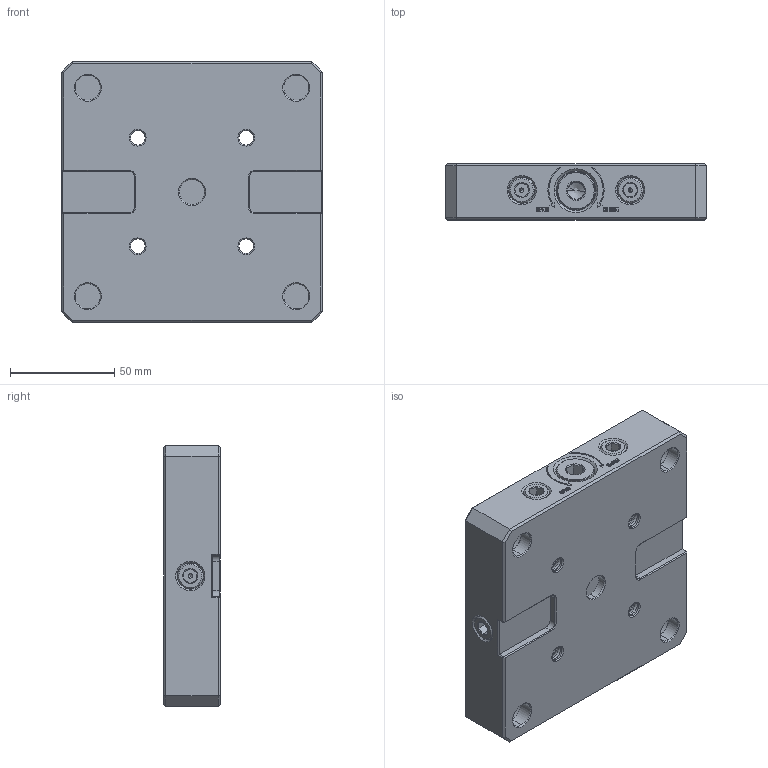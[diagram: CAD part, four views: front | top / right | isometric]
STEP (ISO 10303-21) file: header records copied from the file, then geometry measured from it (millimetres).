
FILE_DESCRIPTION((''),'2;1');
FILE_NAME('TI_WH_52ZPS_0S125NP001_ASM','2026-06-07T17:06:48',('Admin'),(''),'CREO PARAMETRIC BY PTC INC, 2025010','CREO PARAMETRIC BY PTC INC, 2025010','');
FILE_SCHEMA(('CONFIG_CONTROL_DESIGN'));
Length unit declared in the file: millimetre
Products named in the file (16): B40101-00003_-10700001; _20001; B40101-00003_-41700001; F009-0010923B_-1-S0001; 200; B40101-00003_-98730001; B11500-00184_O--110001; B40101-00003_-16110001; B11500-00184_O--200001; B11500-00184_O--210001; B11500-00184_O--330001; B40101-00003_-37010001; B40101-00003_-38340001; NT-S52P125V1_ASM; CAP_1; TI_WH_52ZPS_0S125NP001_ASM
Assembly tree (18 placements, depth 3):
  TI_WH_52ZPS_0S125NP001_ASM
    NT-S52P125V1_ASM
      B40101-00003_-10700001
      _20001
      B40101-00003_-41700001
      F009-0010923B_-1-S0001
      200
      B40101-00003_-98730001
      B11500-00184_O--110001
      B40101-00003_-16110001
      B11500-00184_O--200001
      B11500-00184_O--210001
      B11500-00184_O--330001
      B40101-00003_-37010001
      B40101-00003_-38340001
    CAP_1  x4
Bounding box: 125 x 27 x 125 mm (x, y, z)
Volume: 376821.8 mm3; surface area: 68712.5 mm2
Topology: 17 solids, 17 shells, 716 faces, 1635 edges, 985 vertices
Faces by surface type: plane 281, cone 194, cylinder 172, extrusion 40, torus 26, bspline 3
Entity records: 28107 total; most frequent: CARTESIAN_POINT 12913, DIRECTION 3177, ORIENTED_EDGE 2986, EDGE_CURVE 1493, AXIS2_PLACEMENT_3D 1179, VERTEX_POINT 913, VECTOR 819, LINE 779
